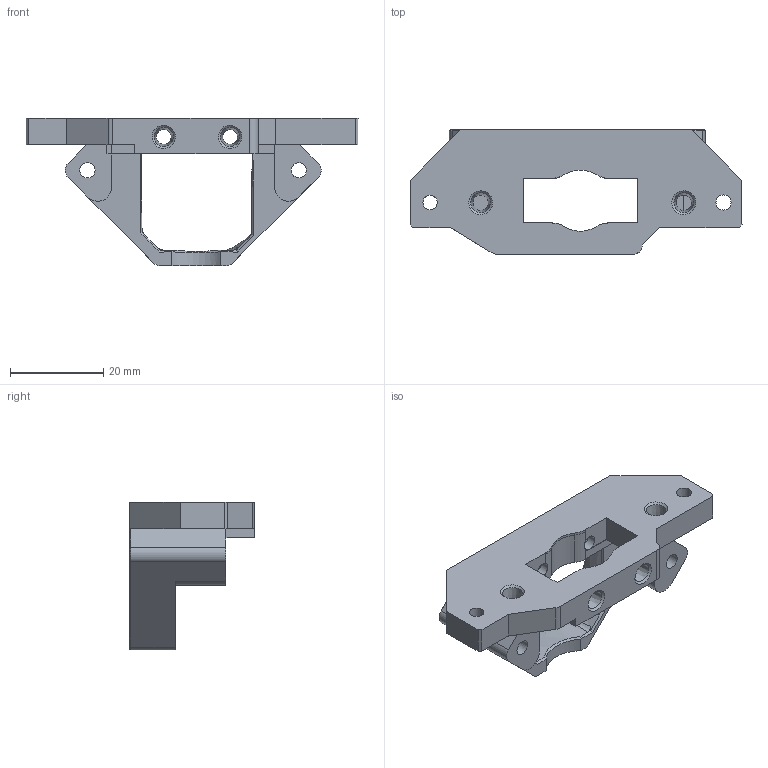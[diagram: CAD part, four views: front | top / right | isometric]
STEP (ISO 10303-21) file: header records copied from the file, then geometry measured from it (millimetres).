
FILE_DESCRIPTION(/* description */ (''),/* implementation_level */ '2;1');
FILE_NAME(/* name */ 'C:/Users/Martin/Documents/icarus-2.1/icarus-2-current-step-files/2-mounts/mount-sherpa-mini-r1-dragonfly-bms-2.1.step',/* time_stamp */ '2022-08-22T21:29:18+02:00',/* author */ (''),/* organization */ (''),/* preprocessor_version */ 'ST-DEVELOPER v19',/* originating_system */ 'Autodesk Translation Framework v11.7.0.108',/* authorisation */ '');
FILE_SCHEMA (('AUTOMOTIVE_DESIGN { 1 0 10303 214 3 1 1 }'));
Length unit declared in the file: millimetre
Products named in the file (1): icarus-2-hotend-extruder-mounts
Bounding box: 71.07 x 26.66 x 31.68 mm (x, y, z)
Volume: 12396.9 mm3; surface area: 7700.3 mm2
Topology: 1 solids, 1 shells, 127 faces, 371 edges, 244 vertices
Faces by surface type: plane 56, cylinder 35, bspline 28, cone 8
Full cylindrical faces by diameter (mm): 3.1 x1, 3.2 x4, 3.25 x4, 3.3 x2, 5.8 x2
Entity records: 5833 total; most frequent: CARTESIAN_POINT 2520, ORIENTED_EDGE 742, DIRECTION 595, EDGE_CURVE 371, VERTEX_POINT 244, LINE 205, VECTOR 205, AXIS2_PLACEMENT_3D 195
